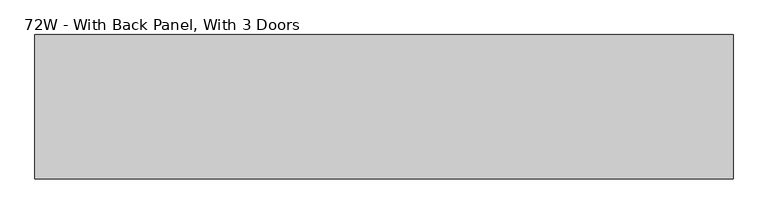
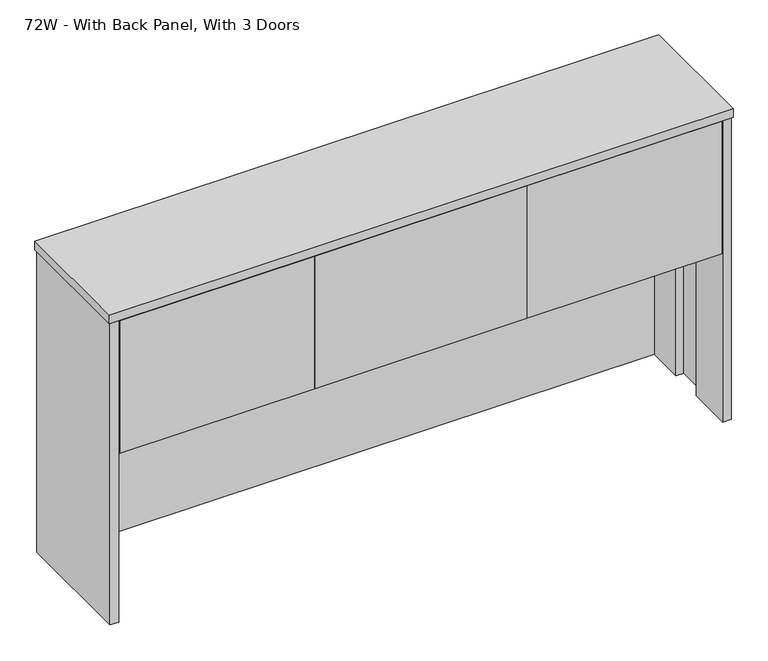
"""IFC4 building model written with IfcOpenShell, lengths in millimetres: furniture geometry, Steelcase - Kick Freestanding - Overhead Storage Cabinet With Hinge Door : 72W - With Back Panel, With 3 Doors."""

from ifc_helpers import new_model, si_unit, frame, origin, place, context, project, spatial, polyline, outline, extrude, source, transform, mapped, element, save


def furniture_72w_with_back_panel_with_3_doors_21cf5fe2(model_context):
    return source(origin(), model_context, "Body", "SweptSolid", [
        extrude(outline(polyline([(606.2138992, -396.8750114), (606.2138992, -377.8250114), (1222.1638992, -377.8250114), (1222.1638992, -396.8750114), (606.2138992, -396.8750114)])), frame((0.0, 0.0, 1012.5930246), z_axis=(0.0, 0.0, 1.0), x_axis=(1.0, 0.0, 0.0)), (0.0, 0.0, 1.0), 406.4000484),
        extrude(outline(polyline([(1790.3618992, -28.5781763), (1815.8872195, -28.5781763), (1815.8872195, -396.8781725), (1790.3618992, -396.8781725), (1790.3618992, -263.5281725), (1812.7122191, -263.5281725), (1812.7122191, -161.9281786), (1790.3618992, -161.9281786), (1790.3618992, -28.5781763)])), frame((0.0, 0.0, 495.068073), z_axis=(0.0, 0.0, 1.0), x_axis=(1.0, 0.0, 0.0)), (0.0, 0.0, 1.0), 927.1),
        extrude(outline(polyline([(1222.1638992, -377.8250114), (1787.3126896, -377.8250114), (1787.3126896, -396.8750114), (1222.1638992, -396.8750114), (1222.1638992, -377.8250114)])), frame((0.0, 0.0, 1012.5930246), z_axis=(0.0, 0.0, 1.0), x_axis=(1.0, 0.0, 0.0)), (0.0, 0.0, 1.0), 406.4000484),
        extrude(outline(polyline([(606.2138992, -377.8250114), (606.2138992, -396.8750114), (41.0639007, -396.8750114), (41.0639007, -377.8250114), (606.2138992, -377.8250114)])), frame((0.0, 0.0, 1012.5930246), z_axis=(0.0, 0.0, 1.0), x_axis=(1.0, 0.0, 0.0)), (0.0, 0.0, 1.0), 406.4000484),
        extrude(outline(polyline([(1790.3618992, -53.9789719), (38.0158992, -53.9789719), (38.0158992, -28.5789734), (1790.3618992, -28.5789734), (1790.3618992, -53.9789719)])), frame((0.0, 0.0, 495.068073), z_axis=(0.0, 0.0, 1.0), x_axis=(1.0, 0.0, 0.0)), (0.0, 0.0, 1.0), 927.1),
        extrude(outline(polyline([(38.0158992, -28.5781763), (38.0158992, -161.9281786), (15.6638988, -161.9281786), (15.6638988, -263.5281725), (38.0158992, -263.5281725), (38.0158992, -396.8781725), (12.4888985, -396.8781725), (12.4888985, -28.5781763), (38.0158992, -28.5781763)])), frame((0.0, 0.0, 495.068073), z_axis=(0.0, 0.0, 1.0), x_axis=(1.0, 0.0, 0.0)), (0.0, 0.0, 1.0), 927.1),
        extrude(outline(polyline([(1819.0638992, -25.4), (1819.0638992, -400.05), (9.3138992, -400.05), (9.3138992, -25.4), (1819.0638992, -25.4)])), frame((0.0, 0.0, 1422.168073), z_axis=(0.0, 0.0, 1.0), x_axis=(1.0, 0.0, 0.0)), (0.0, 0.0, 1.0), 25.4),
    ])


if __name__ == "__main__":
    model = new_model("IFC4")
    model_context = context("Model", 3, world=origin())
    ifc_project = project(units=[si_unit("LENGTHUNIT", "METRE", prefix="MILLI")], contexts=[model_context])
    site = spatial("IfcSite", under=ifc_project)
    building = spatial("IfcBuilding", under=site)
    placement = place(None, origin())
    furniture_72w_with_back_panel_with_3_doors_shape = furniture_72w_with_back_panel_with_3_doors_21cf5fe2(model_context)
    element("IfcFurniture", 1, ObjectType="Steelcase - Kick Freestanding - Overhead Storage Cabinet With Hinge Door : 72W - With Back Panel, With 3 Doors", at=placement, inside=building, context=model_context, shape_type="MappedRepresentation", body=[
        mapped(furniture_72w_with_back_panel_with_3_doors_shape, transform((0.0, 0.0, 0.0), x_axis=(1.0, 0.0, 0.0), y_axis=(0.0, 1.0, 0.0), z_axis=(0.0, 0.0, 1.0))),
    ])
    save(model, "model.ifc")
